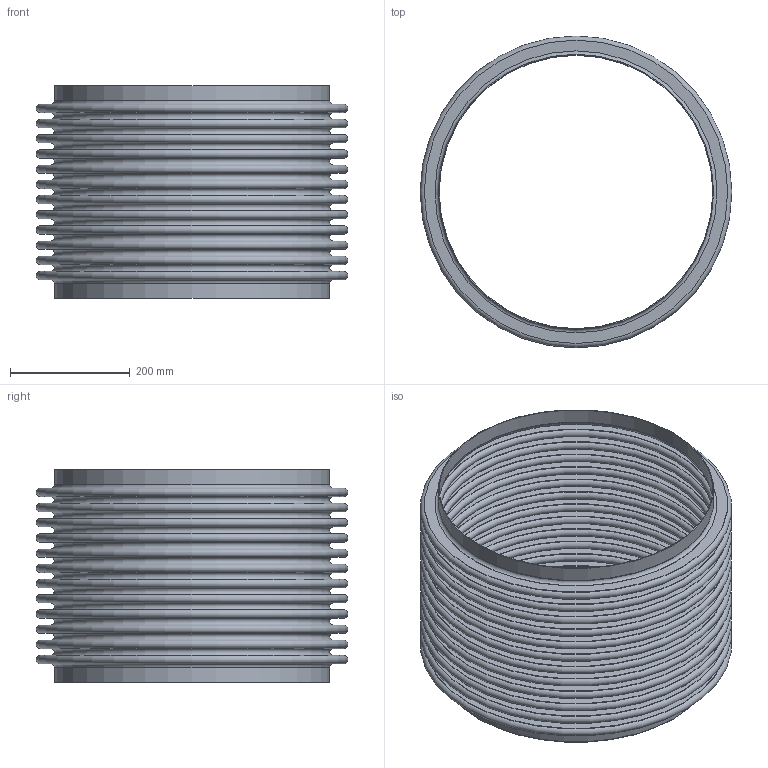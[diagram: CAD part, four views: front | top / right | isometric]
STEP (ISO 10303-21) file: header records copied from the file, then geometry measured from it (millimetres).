
FILE_DESCRIPTION(/* description */ (''),/* implementation_level */ '2;1');
FILE_NAME(/* name */ 'US-18-12-85L.stp',/* time_stamp */ '2026-07-21T11:17:04-05:00',/* author */ ('linda'),/* organization */ (''),/* preprocessor_version */ 'ST-DEVELOPER v20.1',/* originating_system */ 'Autodesk Inventor 2026',/* authorisation */ '');
FILE_SCHEMA (('AUTOMOTIVE_DESIGN { 1 0 10303 214 3 1 1 }'));
Length unit declared in the file: inch
Products named in the file (1): Part3
Bounding box: 520.7 x 520.7 x 355.6 mm (x, y, z)
Volume: 1787290.2 mm3; surface area: 2942441.7 mm2
Topology: 3 solids, 3 shells, 108 faces, 162 edges, 109 vertices
Faces by surface type: plane 54, torus 50, cylinder 4
Full cylindrical faces by diameter (mm): 457.2 x2, 459.638 x2
Entity records: 2667 total; most frequent: DIRECTION 538, CARTESIAN_POINT 380, ORIENTED_EDGE 324, AXIS2_PLACEMENT_3D 267, EDGE_LOOP 162, EDGE_CURVE 162, CIRCLE 158, STYLED_ITEM 111
